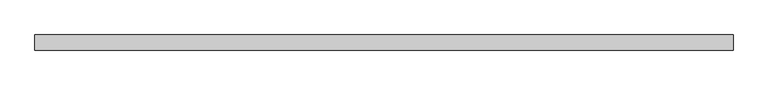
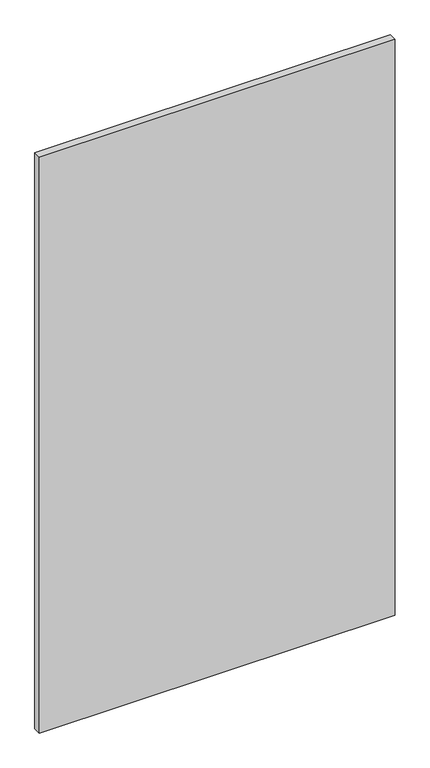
"""IFC4 building model written with IfcOpenShell, lengths in millimetres: plate geometry, 系统嵌板 : 玻璃."""

from ifc_helpers import new_model, si_unit, origin, origin_with_axes, place, context, project, spatial, polyline, outline, extrude, source, transform, mapped, element, save


def plate_60d2a096(model_context):
    return source(origin(), model_context, "Body", "SweptSolid", [
        extrude(outline(polyline([(562.5, -12.5), (-562.5, -12.5), (-562.5, 12.5), (562.5, 12.5), (562.5, -12.5)])), origin_with_axes(), (0.0, 0.0, 1.0), 1925.0),
    ])


if __name__ == "__main__":
    model = new_model("IFC4")
    model_context = context("Model", 3, world=origin())
    ifc_project = project(units=[si_unit("LENGTHUNIT", "METRE", prefix="MILLI")], contexts=[model_context])
    site = spatial("IfcSite", under=ifc_project)
    building = spatial("IfcBuilding", under=site)
    placement = place(None, origin())
    plate_shape = plate_60d2a096(model_context)
    element("IfcPlate", 1, ObjectType="系统嵌板 : 玻璃", at=placement, inside=building, context=model_context, shape_type="MappedRepresentation", body=[
        mapped(plate_shape, transform((0.0, 0.0, 0.0), x_axis=(1.0, 0.0, 0.0), y_axis=(0.0, 1.0, 0.0), z_axis=(0.0, 0.0, 1.0))),
    ])
    save(model, "model.ifc")
